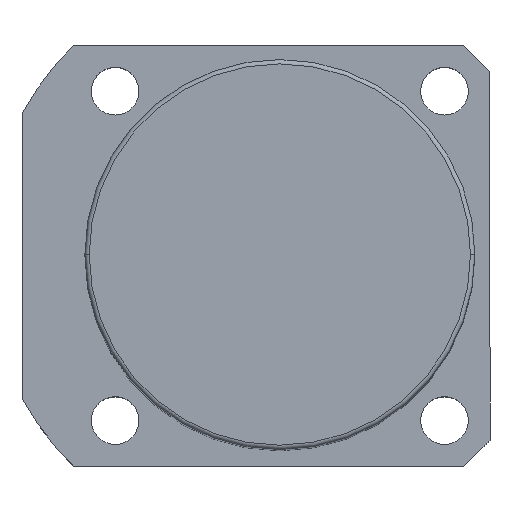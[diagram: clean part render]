
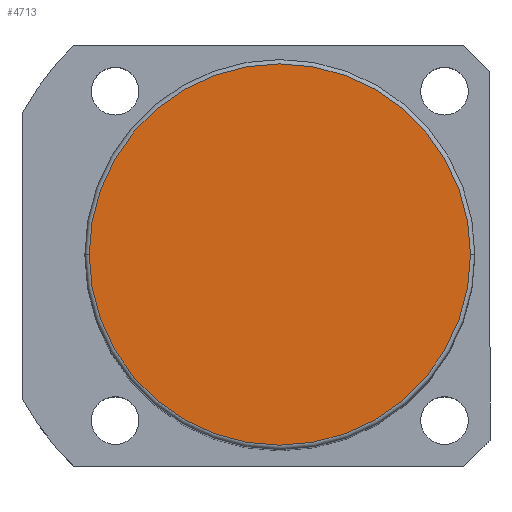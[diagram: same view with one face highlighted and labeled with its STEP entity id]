
A CAD part, top view. The second image highlights one B-rep face of the part: STEP entity #4713.
In plain terms, the highlighted planar face has unit normal (0, 0, 1).
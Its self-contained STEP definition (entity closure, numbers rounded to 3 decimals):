
#1334 = EDGE_CURVE ( 'NONE', #5190, #5541, #6804, .T. ) ;
#1593 = DIRECTION ( 'NONE',  ( 0., 0., 1. ) ) ;
#2693 = PLANE ( 'NONE',  #2867 ) ;
#2846 = EDGE_CURVE ( 'NONE', #5541, #5190, #4297, .T. ) ;
#2867 = AXIS2_PLACEMENT_3D ( 'NONE', #4358, #1593, #5468 ) ;
#2933 = DIRECTION ( 'NONE',  ( 0., 0., 1. ) ) ;
#3142 = EDGE_LOOP ( 'NONE', ( #5238, #6268 ) ) ;
#4208 = CARTESIAN_POINT ( 'NONE',  ( 44., 0., 191.5 ) ) ;
#4297 = CIRCLE ( 'NONE', #6575, 44. ) ;
#4358 = CARTESIAN_POINT ( 'NONE',  ( 0., 0., 191.5 ) ) ;
#4713 = ADVANCED_FACE ( 'NONE', ( #6311 ), #2693, .T. ) ;
#5190 = VERTEX_POINT ( 'NONE', #4208 ) ;
#5238 = ORIENTED_EDGE ( 'NONE', *, *, #1334, .T. ) ;
#5326 = CARTESIAN_POINT ( 'NONE',  ( 0., 0., 191.5 ) ) ;
#5350 = DIRECTION ( 'NONE',  ( 0., 0., 1. ) ) ;
#5401 = DIRECTION ( 'NONE',  ( 1., 0., 0. ) ) ;
#5468 = DIRECTION ( 'NONE',  ( 1., 0., 0. ) ) ;
#5541 = VERTEX_POINT ( 'NONE', #5584 ) ;
#5584 = CARTESIAN_POINT ( 'NONE',  ( -44., 0., 191.5 ) ) ;
#5774 = AXIS2_PLACEMENT_3D ( 'NONE', #5326, #5350, #5401 ) ;
#6245 = CARTESIAN_POINT ( 'NONE',  ( 0., 0., 191.5 ) ) ;
#6268 = ORIENTED_EDGE ( 'NONE', *, *, #2846, .T. ) ;
#6311 = FACE_OUTER_BOUND ( 'NONE', #3142, .T. ) ;
#6575 = AXIS2_PLACEMENT_3D ( 'NONE', #6245, #2933, #6809 ) ;
#6804 = CIRCLE ( 'NONE', #5774, 44. ) ;
#6809 = DIRECTION ( 'NONE',  ( 1., 0., 0. ) ) ;
